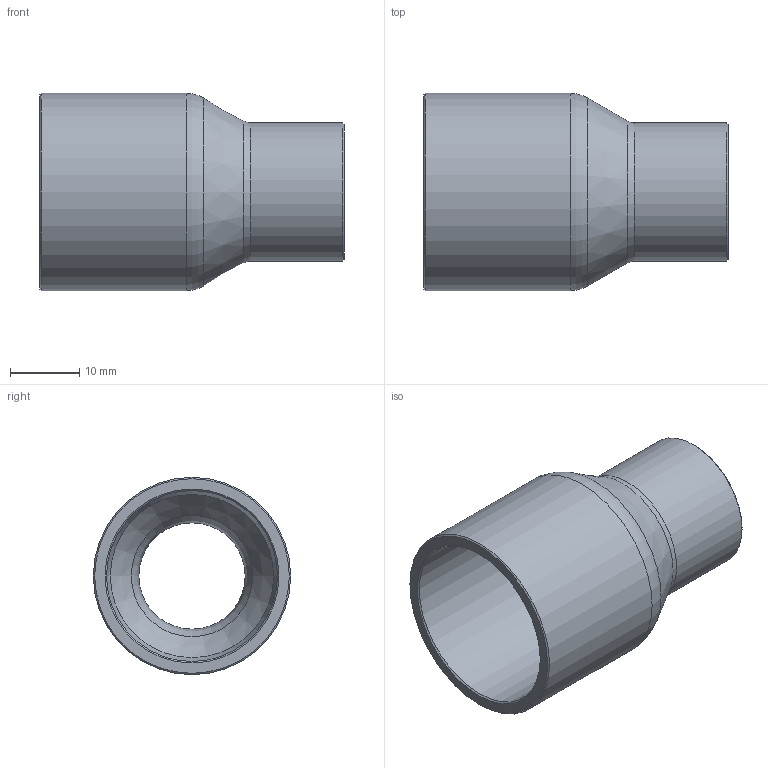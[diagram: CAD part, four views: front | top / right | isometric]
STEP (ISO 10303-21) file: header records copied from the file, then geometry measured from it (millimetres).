
FILE_DESCRIPTION((''),'2;1');
FILE_NAME('G:\SANHA-Ternat\Technik\Management\Bouwmaten + markeringen\z-maattekeningen 3D\29000s\2924311858_3d.stp','2017-08-03T16:11:58',('vdvijverd'),(''),'Autodesk Inventor 2009','Autodesk Inventor 2009','');
FILE_SCHEMA(('AUTOMOTIVE_DESIGN { 1 0 10303 214 1 1 1 1 }'));
Length unit declared in the file: millimetre
Products named in the file (1): 2924311858_3d
Bounding box: 44.1 x 28.57 x 28.57 mm (x, y, z)
Volume: 6476.8 mm3; surface area: 6790.7 mm2
Topology: 1 solids, 1 shells, 17 faces, 32 edges, 17 vertices
Faces by surface type: cone 6, cylinder 4, bspline 3, plane 2, torus 2
Full cylindrical faces by diameter (mm): 15.995 x1, 19.995 x1, 24.775 x1, 28.575 x1
Entity records: 494 total; most frequent: CARTESIAN_POINT 184, DIRECTION 64, ORIENTED_EDGE 34, EDGE_LOOP 34, AXIS2_PLACEMENT_3D 32, VERTEX_POINT 17, CIRCLE 17, EDGE_CURVE 17
